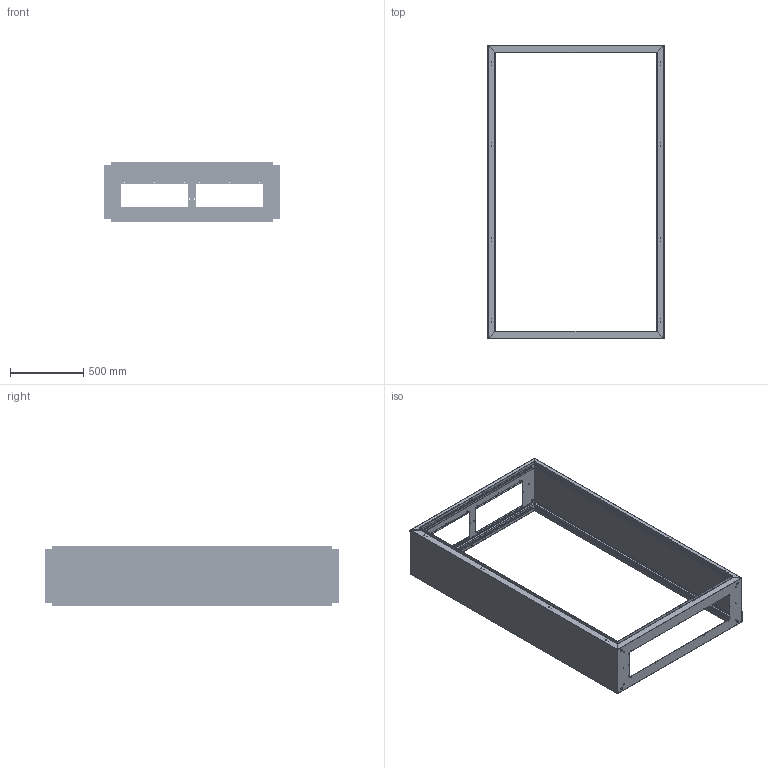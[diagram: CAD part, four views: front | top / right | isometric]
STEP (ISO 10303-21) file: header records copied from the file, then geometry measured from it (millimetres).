
FILE_DESCRIPTION (( 'STEP AP203' ), '1' );
FILE_NAME ('1200x2000x400.STEP', '2021-11-11T16:58:13', ( '' ), ( '' ), 'SwSTEP 2.0', 'SolidWorks 2019', '' );
FILE_SCHEMA (( 'CONFIG_CONTROL_DESIGN' ));
Products named in the file (4): Üst Kapak 1,5mm_monoblok_tekkapakrevize_PP 16.1015 1200Gx400D šST; 1200x2000x400; Yan Kapak 1,5mm_monoblok_tekkapakrevize_PP 16.1006 - 2000Yx400D YAN; Alt Kapak 1,5mm_monoblok_tekkapakrevize_PP 16.1024 1200Gx400D ALT
Assembly tree (4 placements, depth 2):
  1200x2000x400
    Alt Kapak 1,5mm_monoblok_tekkapakrevize_PP 16.1024 1200Gx400D ALT
    Üst Kapak 1,5mm_monoblok_tekkapakrevize_PP 16.1015 1200Gx400D šST
    Yan Kapak 1,5mm_monoblok_tekkapakrevize_PP 16.1006 - 2000Yx400D YAN  x2
Bounding box: 1200 x 2000 x 412 mm (x, y, z)
Volume: 5551381.8 mm3; surface area: 7511233.4 mm2
Topology: 4 solids, 4 shells, 6320 faces, 18656 edges, 12352 vertices
Faces by surface type: plane 4108, cylinder 2196, bspline 16
Entity records: 153082 total; most frequent: CARTESIAN_POINT 26535, ORIENTED_EDGE 26024, DIRECTION 24858, EDGE_CURVE 13012, VECTOR 9940, LINE 9940, VERTEX_POINT 8608, AXIS2_PLACEMENT_3D 7459
